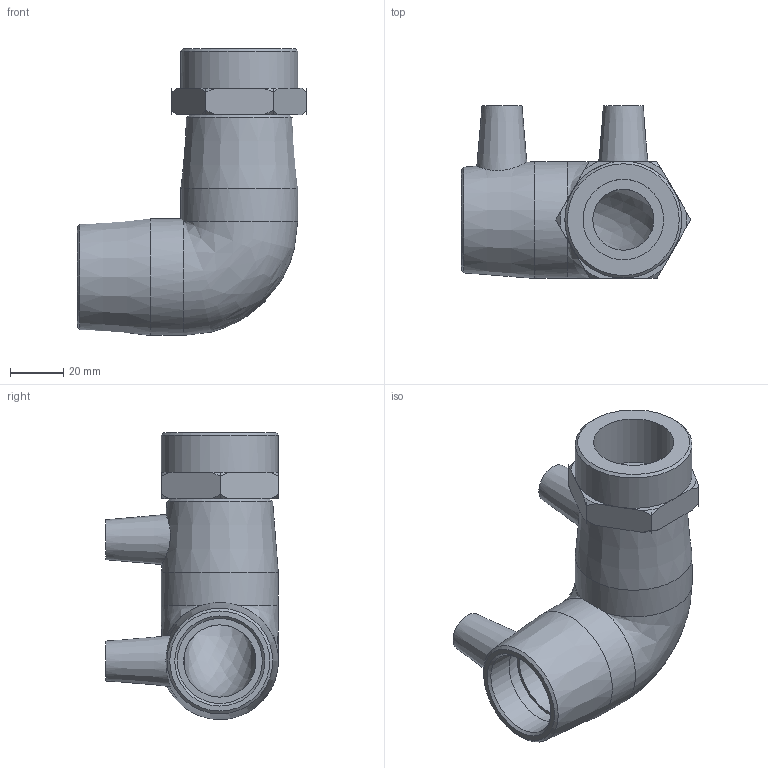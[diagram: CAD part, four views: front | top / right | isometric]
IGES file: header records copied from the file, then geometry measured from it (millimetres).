
Global section: file name: 493504032010.ipt; native system: Autodesk Inventor 2015; preprocessor: unknown; author: KIM; date: 20200202.123449; units: millimetre
Bounding box: 86.4 x 65.06 x 108 mm (x, y, z)
Volume: 128092.3 mm3; surface area: 38700 mm2
Topology: 2 solids, 2 shells, 76 faces, 215 edges, 150 vertices
Faces by surface type: plane 27, revolution 22, cone 19, cylinder 7, bspline 1
Full cylindrical faces by diameter (mm): 4 x2, 32 x2, 44 x3
